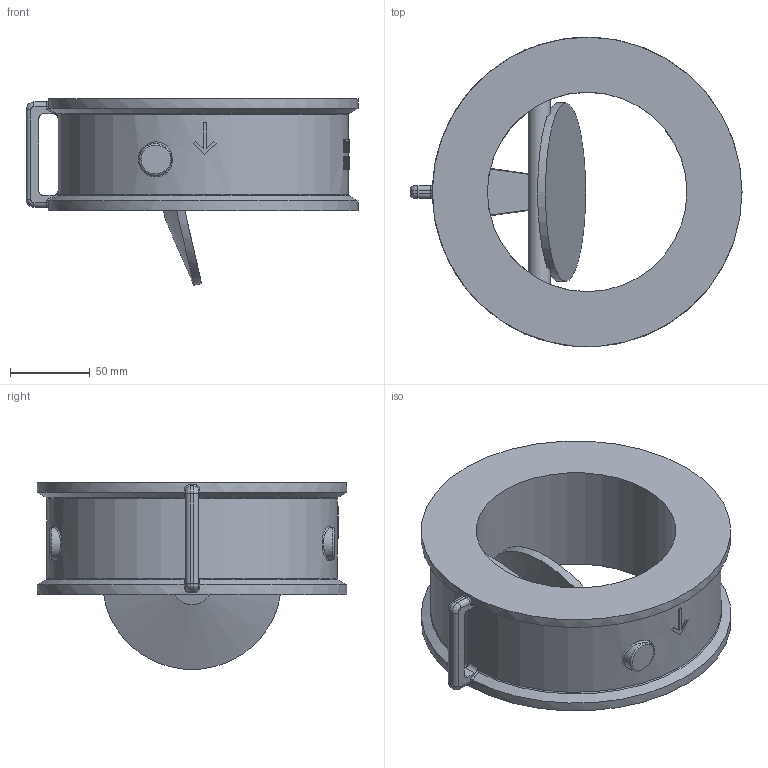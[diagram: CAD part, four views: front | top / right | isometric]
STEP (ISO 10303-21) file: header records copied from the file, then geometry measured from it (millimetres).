
FILE_DESCRIPTION( ( 'Unknown' ), '1' );
FILE_NAME( 'C:/Documents and Settings/Klaus/My Documents/Rootsi BPS 3D, Klaus/BPS 6530 tilting disc check valve/STEP/BPS6530125 tilting disc check valve DN125.stp', 'Unknown', ( 'Unknown' ), ( 'Unknown' ), 'PSStep 10.1', 'Unknown', ' ' );
FILE_SCHEMA( ( 'AUTOMOTIVE_DESIGN { 1 0 10303 214 1 1 1 1 }' ) );
Length unit declared in the file: millimetre
Products named in the file (1): 1
Bounding box: 208 x 194 x 116.8 mm (x, y, z)
Volume: 1129671.5 mm3; surface area: 134510.9 mm2
Topology: 1 solids, 1 shells, 270 faces, 684 edges, 445 vertices
Faces by surface type: bspline 106, plane 101, cylinder 53, torus 6, cone 4
Full cylindrical faces by diameter (mm): 14 x1, 112 x1, 125 x1, 194 x2
Entity records: 22078 total; most frequent: CARTESIAN_POINT 14795, ORIENTED_EDGE 1344, EDGE_CURVE 672, B_SPLINE_CURVE_WITH_KNOTS 543, DIRECTION 532, VERTEX_POINT 441, EDGE_LOOP 315, FACE_OUTER_BOUND 277
